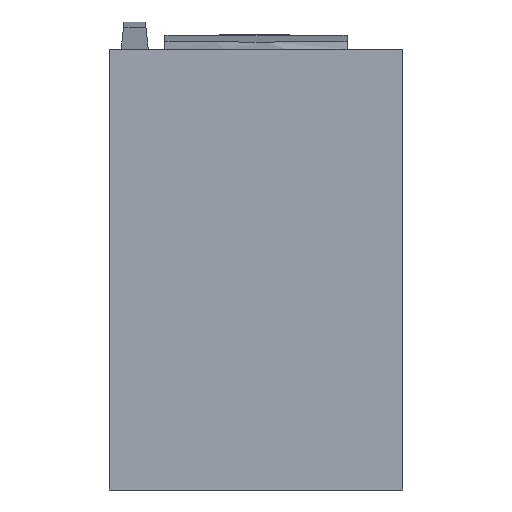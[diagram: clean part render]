
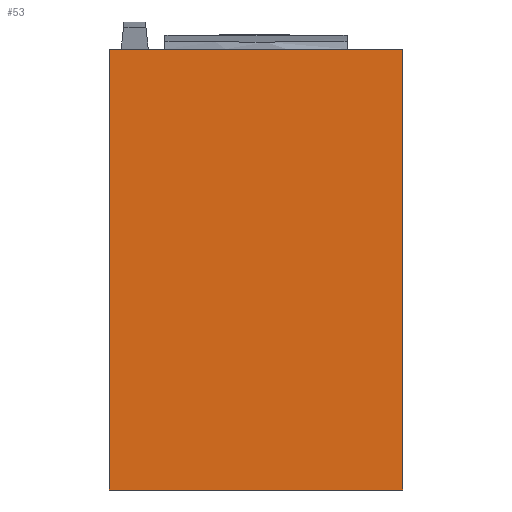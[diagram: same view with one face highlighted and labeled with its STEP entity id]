
A CAD part, front view. The second image highlights one B-rep face of the part: STEP entity #53.
In plain terms, the highlighted planar face has unit normal (0, -1, 0).
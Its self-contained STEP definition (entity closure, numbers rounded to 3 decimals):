
#53=ADVANCED_FACE('Corps principal',(#116),#117,.F.);
#116=FACE_OUTER_BOUND('',#221,.T.);
#117=PLANE('',#222);
#221=EDGE_LOOP('',(#526,#527,#528,#529));
#222=AXIS2_PLACEMENT_3D('',#530,#531,#532);
#526=ORIENTED_EDGE('',*,*,#889,.F.);
#527=ORIENTED_EDGE('',*,*,#890,.F.);
#528=ORIENTED_EDGE('',*,*,#854,.F.);
#529=ORIENTED_EDGE('',*,*,#888,.F.);
#530=CARTESIAN_POINT('',(0.0,100.0,0.0));
#531=DIRECTION('',(0.0,1.0,0.0));
#532=DIRECTION('',(1.0,-0.0,0.0));
#854=EDGE_CURVE('',#985,#988,#989,.T.);
#888=EDGE_CURVE('',#1050,#985,#1052,.F.);
#889=EDGE_CURVE('',#1053,#1050,#1054,.T.);
#890=EDGE_CURVE('',#988,#1053,#1055,.F.);
#985=VERTEX_POINT('',#1202);
#988=VERTEX_POINT('',#1206);
#989=LINE('',#1207,#1208);
#1050=VERTEX_POINT('',#1380);
#1052=LINE('',#1383,#1384);
#1053=VERTEX_POINT('',#1385);
#1054=LINE('',#1386,#1387);
#1055=LINE('',#1388,#1389);
#1202=CARTESIAN_POINT('',(-200.0,100.0,300.0));
#1206=CARTESIAN_POINT('',(200.0,100.0,300.0));
#1207=CARTESIAN_POINT('',(0.0,100.0,300.0));
#1208=VECTOR('',#1660,1.0);
#1380=CARTESIAN_POINT('',(-200.0,100.0,-300.0));
#1383=CARTESIAN_POINT('',(-200.0,100.0,0.0));
#1384=VECTOR('',#1694,1.0);
#1385=CARTESIAN_POINT('',(200.0,100.0,-300.0));
#1386=CARTESIAN_POINT('',(0.0,100.0,-300.0));
#1387=VECTOR('',#1695,1.0);
#1388=CARTESIAN_POINT('',(200.0,100.0,0.0));
#1389=VECTOR('',#1696,1.0);
#1660=DIRECTION('',(1.0,0.0,0.0));
#1694=DIRECTION('',(0.0,0.0,-1.0));
#1695=DIRECTION('',(-1.0,0.0,0.0));
#1696=DIRECTION('',(0.0,0.0,1.0));
